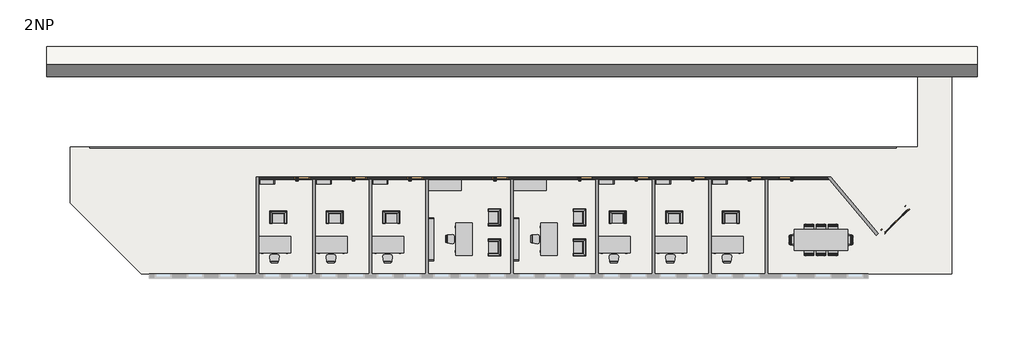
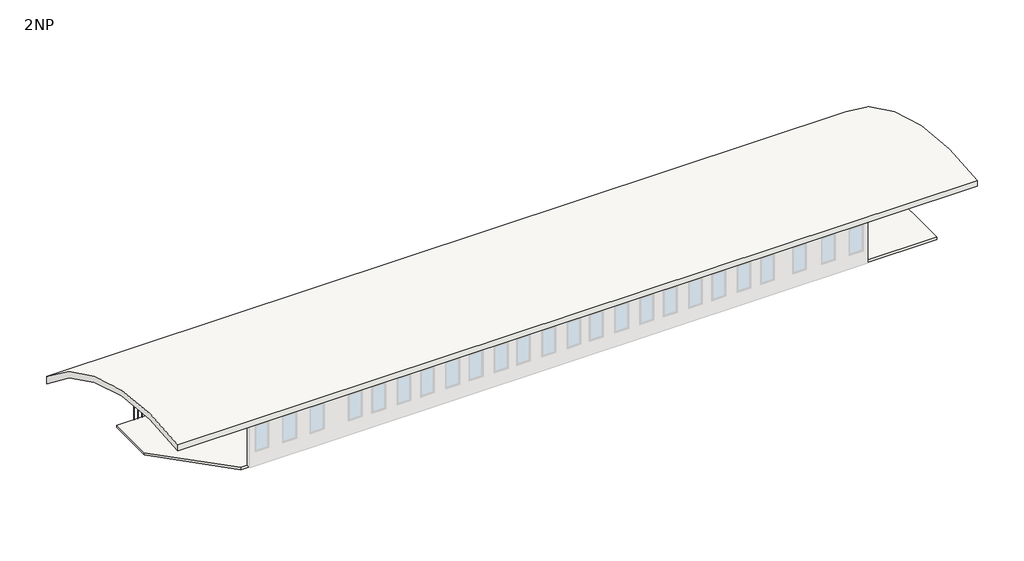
# One storey, part 2 of 2: 45 furniture elements, 10 doors, 1 railing, 1 roof, 1 slab, 1 wall.
"""IFC4 building model written with IfcOpenShell, lengths in millimetres."""

from ifc_helpers import new_model, si_unit, point, frame, frame_2d, origin, place, context, project, spatial, polyline, circle_curve, trimmed, segment, composite_curve, outline, extrude, faceted_brep, transform, mapped, element, save
from components import door_1800_x_1970mm_ce9160c6, door_900_x_2000_4c66a93d, door_900_x_2000_c64c60ef, furniture_b7f3823b, furniture_3b363349, furniture_ccc35c8f, furniture_2764bdef, furniture_0915_x_0254_x_1830mm_1d5e155e, furniture_1200_x_3050mm_930714f4, furniture_1800_x_900mm_2fcb012d, furniture_1830_x_0610mm_1080a9db, furniture_2440_x_0305_x_2134mm_59c1a9e4, railing_1100mm_11e5196f, railing_1100mm_f5e6f717

model = new_model("IFC4")

# Units and contexts
model_context = context("Model", 3, world=origin())
ifc_project = project(units=[si_unit("LENGTHUNIT", "METRE", prefix="MILLI")], contexts=[model_context])

# Site, building, storey
site = spatial("IfcSite", under=ifc_project)
building = spatial("IfcBuilding", under=site)
storey = spatial("IfcBuildingStorey", under=building, Name="2NP", Elevation=4000.0)

# Doors
placement = place(None, origin())
door_1800_x_1970mm_shape = door_1800_x_1970mm_ce9160c6(model_context)
element("IfcDoor", 1, ObjectType="Dvoukridle prosklene : 1800 x 1970mm", at=placement, inside=storey, context=model_context, shape_type="MappedRepresentation", body=[
    mapped(door_1800_x_1970mm_shape, transform((35269.5413404, -1561.4077171, 4000.0), x_axis=(-0.7071067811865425, -0.7071067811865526, 0.0), y_axis=(0.7071067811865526, -0.7071067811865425, 0.0), z_axis=(0.0, 0.0, 1.0))),
])
door_900_x_2000_shape = door_900_x_2000_4c66a93d(model_context)
element("IfcDoor", 2, ObjectType="Jednokridle oboustrana zaruben : 900 x 2000", at=placement, inside=storey, context=model_context, shape_type="MappedRepresentation", body=[
    mapped(door_900_x_2000_shape, transform((29135.9255273, 791.5551306, 4000.0), x_axis=(1.0, 0.0, 0.0), y_axis=(0.0, 1.0, 0.0), z_axis=(0.0, 0.0, 1.0))),
])
door_900_x_2000_2_shape = door_900_x_2000_c64c60ef(model_context)
element("IfcDoor", 3, ObjectType="Jednokridle oboustrana zaruben : 900 x 2000", at=placement, inside=storey, context=model_context, shape_type="MappedRepresentation", body=[
    mapped(door_900_x_2000_2_shape, transform((1699.9255273, 791.5551306, 4000.0), x_axis=(-1.0, 0.0, 0.0), y_axis=(0.0, -1.0, 0.0), z_axis=(0.0, 0.0, 1.0))),
])
element("IfcDoor", 4, ObjectType="Jednokridle oboustrana zaruben : 900 x 2000", at=placement, inside=storey, context=model_context, shape_type="MappedRepresentation", body=[
    mapped(door_900_x_2000_2_shape, transform((4899.9255273, 791.5551306, 4000.0), x_axis=(-1.0, 0.0, 0.0), y_axis=(0.0, -1.0, 0.0), z_axis=(0.0, 0.0, 1.0))),
])
element("IfcDoor", 5, ObjectType="Jednokridle oboustrana zaruben : 900 x 2000", at=placement, inside=storey, context=model_context, shape_type="MappedRepresentation", body=[
    mapped(door_900_x_2000_2_shape, transform((8099.9255273, 791.5551306, 4000.0), x_axis=(-1.0, 0.0, 0.0), y_axis=(0.0, -1.0, 0.0), z_axis=(0.0, 0.0, 1.0))),
])
element("IfcDoor", 6, ObjectType="Jednokridle oboustrana zaruben : 900 x 2000", at=placement, inside=storey, context=model_context, shape_type="MappedRepresentation", body=[
    mapped(door_900_x_2000_2_shape, transform((12899.9255273, 791.5551306, 4000.0), x_axis=(-1.0, 0.0, 0.0), y_axis=(0.0, -1.0, 0.0), z_axis=(0.0, 0.0, 1.0))),
])
element("IfcDoor", 7, ObjectType="Jednokridle oboustrana zaruben : 900 x 2000", at=placement, inside=storey, context=model_context, shape_type="MappedRepresentation", body=[
    mapped(door_900_x_2000_2_shape, transform((20899.9255273, 791.5551306, 4000.0), x_axis=(-1.0, 0.0, 0.0), y_axis=(0.0, -1.0, 0.0), z_axis=(0.0, 0.0, 1.0))),
])
element("IfcDoor", 8, ObjectType="Jednokridle oboustrana zaruben : 900 x 2000", at=placement, inside=storey, context=model_context, shape_type="MappedRepresentation", body=[
    mapped(door_900_x_2000_2_shape, transform((24099.9255273, 791.5551306, 4000.0), x_axis=(-1.0, 0.0, 0.0), y_axis=(0.0, -1.0, 0.0), z_axis=(0.0, 0.0, 1.0))),
])
element("IfcDoor", 9, ObjectType="Jednokridle oboustrana zaruben : 900 x 2000", at=placement, inside=storey, context=model_context, shape_type="MappedRepresentation", body=[
    mapped(door_900_x_2000_2_shape, transform((27299.9255273, 791.5551306, 4000.0), x_axis=(-1.0, 0.0, 0.0), y_axis=(0.0, -1.0, 0.0), z_axis=(0.0, 0.0, 1.0))),
])
element("IfcDoor", 10, ObjectType="Jednokridle oboustrana zaruben : 900 x 2000", at=placement, inside=storey, context=model_context, shape_type="MappedRepresentation", body=[
    mapped(door_900_x_2000_2_shape, transform((17699.9255273, 791.5551306, 4000.0), x_axis=(-1.0, 0.0, 0.0), y_axis=(0.0, -1.0, 0.0), z_axis=(0.0, 0.0, 1.0))),
])

# Furniture
furniture_shape = furniture_b7f3823b(model_context)
element("IfcFurniture", 11, ObjectType="Prac.zidleH : Prac.zidleHranata", at=placement, inside=storey, context=model_context, shape_type="MappedRepresentation", body=[
    mapped(furniture_shape, transform((31897.6750188, -2087.6223918, 4000.0), x_axis=(-1.0, 0.0, 0.0), y_axis=(0.0, -1.0, 0.0), z_axis=(0.0, 0.0, 1.0))),
])
element("IfcFurniture", 12, ObjectType="Prac.zidleH : Prac.zidleHranata", at=placement, inside=storey, context=model_context, shape_type="MappedRepresentation", body=[
    mapped(furniture_shape, transform((31615.6933794, -3325.5141951, 4000.0), x_axis=(1.0, 0.0, 0.0), y_axis=(0.0, 1.0, 0.0), z_axis=(0.0, 0.0, 1.0))),
])
element("IfcFurniture", 13, ObjectType="Prac.zidleH : Prac.zidleHranata", at=placement, inside=storey, context=model_context, shape_type="MappedRepresentation", body=[
    mapped(furniture_shape, transform((30527.9250188, -2087.6223918, 4000.0), x_axis=(-1.0, 0.0, 0.0), y_axis=(0.0, -1.0, 0.0), z_axis=(0.0, 0.0, 1.0))),
])
element("IfcFurniture", 14, ObjectType="Prac.zidleH : Prac.zidleHranata", at=placement, inside=storey, context=model_context, shape_type="MappedRepresentation", body=[
    mapped(furniture_shape, transform((30245.9433794, -3325.5141951, 4000.0), x_axis=(1.0, 0.0, 0.0), y_axis=(0.0, 1.0, 0.0), z_axis=(0.0, 0.0, 1.0))),
])
element("IfcFurniture", 15, ObjectType="Prac.zidleH : Prac.zidleHranata", at=placement, inside=storey, context=model_context, shape_type="MappedRepresentation", body=[
    mapped(furniture_shape, transform((31212.8000188, -2087.6223918, 4000.0), x_axis=(-1.0, 0.0, 0.0), y_axis=(0.0, -1.0, 0.0), z_axis=(0.0, 0.0, 1.0))),
])
element("IfcFurniture", 16, ObjectType="Prac.zidleH : Prac.zidleHranata", at=placement, inside=storey, context=model_context, shape_type="MappedRepresentation", body=[
    mapped(furniture_shape, transform((30930.8183794, -3325.5141951, 4000.0), x_axis=(1.0, 0.0, 0.0), y_axis=(0.0, 1.0, 0.0), z_axis=(0.0, 0.0, 1.0))),
])
furniture_2_shape = furniture_3b363349(model_context)
element("IfcFurniture", 17, ObjectType="Prac.zidleP : Prac.zidlePodrucky", at=placement, inside=storey, context=model_context, shape_type="MappedRepresentation", body=[
    mapped(furniture_2_shape, transform((32615.6301008, -2847.5591131, 4000.0), x_axis=(0.0, 1.0, 0.0), y_axis=(-1.0, 0.0, 0.0), z_axis=(0.0, 0.0, 1.0))),
])
element("IfcFurniture", 18, ObjectType="Prac.zidleP : Prac.zidlePodrucky", at=placement, inside=storey, context=model_context, shape_type="MappedRepresentation", body=[
    mapped(furniture_2_shape, transform((29527.7382975, -2565.5774738, 4000.0), x_axis=(0.0, -1.0000000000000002, 0.0), y_axis=(1.0000000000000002, 0.0, 0.0), z_axis=(0.0, 0.0, 1.0))),
])
furniture_3_shape = furniture_ccc35c8f(model_context)
element("IfcFurniture", 19, ObjectType="Prac.zidle : prac.zidleZaobl", at=placement, inside=storey, context=model_context, shape_type="MappedRepresentation", body=[
    mapped(furniture_3_shape, transform((149.9255273, -3938.9177984, 4000.0), x_axis=(1.0, 0.0, 0.0), y_axis=(0.0, 1.0, 0.0), z_axis=(0.0, 0.0, 1.0))),
])
element("IfcFurniture", 20, ObjectType="Prac.zidle : prac.zidleZaobl", at=placement, inside=storey, context=model_context, shape_type="MappedRepresentation", body=[
    mapped(furniture_3_shape, transform((3349.9255273, -3938.9177984, 4000.0), x_axis=(1.0, 0.0, 0.0), y_axis=(0.0, 1.0, 0.0), z_axis=(0.0, 0.0, 1.0))),
])
element("IfcFurniture", 21, ObjectType="Prac.zidle : prac.zidleZaobl", at=placement, inside=storey, context=model_context, shape_type="MappedRepresentation", body=[
    mapped(furniture_3_shape, transform((6549.9255273, -3938.9177984, 4000.0), x_axis=(1.0, 0.0, 0.0), y_axis=(0.0, 1.0, 0.0), z_axis=(0.0, 0.0, 1.0))),
])
element("IfcFurniture", 22, ObjectType="Prac.zidle : prac.zidleZaobl", at=placement, inside=storey, context=model_context, shape_type="MappedRepresentation", body=[
    mapped(furniture_3_shape, transform((9920.3097542, -2661.8601839, 4000.0), x_axis=(0.0, -1.0, 0.0), y_axis=(1.0, 0.0, 0.0), z_axis=(0.0, 0.0, 1.0))),
])
element("IfcFurniture", 23, ObjectType="Prac.zidle : prac.zidleZaobl", at=placement, inside=storey, context=model_context, shape_type="MappedRepresentation", body=[
    mapped(furniture_3_shape, transform((19349.9255273, -3938.9177984, 4000.0), x_axis=(1.0, 0.0, 0.0), y_axis=(0.0, 1.0, 0.0), z_axis=(0.0, 0.0, 1.0))),
])
element("IfcFurniture", 24, ObjectType="Prac.zidle : prac.zidleZaobl", at=placement, inside=storey, context=model_context, shape_type="MappedRepresentation", body=[
    mapped(furniture_3_shape, transform((22549.9255273, -3938.9177984, 4000.0), x_axis=(1.0, 0.0, 0.0), y_axis=(0.0, 1.0, 0.0), z_axis=(0.0, 0.0, 1.0))),
])
element("IfcFurniture", 25, ObjectType="Prac.zidle : prac.zidleZaobl", at=placement, inside=storey, context=model_context, shape_type="MappedRepresentation", body=[
    mapped(furniture_3_shape, transform((25749.9255273, -3938.9177984, 4000.0), x_axis=(1.0, 0.0, 0.0), y_axis=(0.0, 1.0, 0.0), z_axis=(0.0, 0.0, 1.0))),
])
element("IfcFurniture", 26, ObjectType="Prac.zidle : prac.zidleZaobl", at=placement, inside=storey, context=model_context, shape_type="MappedRepresentation", body=[
    mapped(furniture_3_shape, transform((14720.3097542, -2661.8601839, 4000.0), x_axis=(0.0, -1.0, 0.0), y_axis=(1.0, 0.0, 0.0), z_axis=(0.0, 0.0, 1.0))),
])
furniture_4_shape = furniture_2764bdef(model_context)
element("IfcFurniture", 27, ObjectType="KresilkoCorbusier : KresilkoCorbusier", at=placement, inside=storey, context=model_context, shape_type="MappedRepresentation", body=[
    mapped(furniture_4_shape, transform((2989.3517568, -1887.3719186, 4000.0), x_axis=(1.0, 0.0, 0.0), y_axis=(0.0, 1.0, 0.0), z_axis=(0.0, 0.0, 1.0))),
])
element("IfcFurniture", 28, ObjectType="KresilkoCorbusier : KresilkoCorbusier", at=placement, inside=storey, context=model_context, shape_type="MappedRepresentation", body=[
    mapped(furniture_4_shape, transform((-210.6482432, -1887.3719186, 4000.0), x_axis=(1.0, 0.0, 0.0), y_axis=(0.0, 1.0, 0.0), z_axis=(0.0, 0.0, 1.0))),
])
element("IfcFurniture", 29, ObjectType="KresilkoCorbusier : KresilkoCorbusier", at=placement, inside=storey, context=model_context, shape_type="MappedRepresentation", body=[
    mapped(furniture_4_shape, transform((6189.3517568, -1887.3719186, 4000.0), x_axis=(1.0, 0.0, 0.0), y_axis=(0.0, 1.0, 0.0), z_axis=(0.0, 0.0, 1.0))),
])
element("IfcFurniture", 30, ObjectType="KresilkoCorbusier : KresilkoCorbusier", at=placement, inside=storey, context=model_context, shape_type="MappedRepresentation", body=[
    mapped(furniture_4_shape, transform((12135.7353038, -861.9944392, 4000.0), x_axis=(0.0, -1.0, 0.0), y_axis=(1.0, 0.0, 0.0), z_axis=(0.0, 0.0, 1.0))),
])
element("IfcFurniture", 31, ObjectType="KresilkoCorbusier : KresilkoCorbusier", at=placement, inside=storey, context=model_context, shape_type="MappedRepresentation", body=[
    mapped(furniture_4_shape, transform((18989.3517568, -1887.3719186, 4000.0), x_axis=(1.0, 0.0, 0.0), y_axis=(0.0, 1.0, 0.0), z_axis=(0.0, 0.0, 1.0))),
])
element("IfcFurniture", 32, ObjectType="KresilkoCorbusier : KresilkoCorbusier", at=placement, inside=storey, context=model_context, shape_type="MappedRepresentation", body=[
    mapped(furniture_4_shape, transform((22189.3517568, -1887.3719186, 4000.0), x_axis=(1.0, 0.0, 0.0), y_axis=(0.0, 1.0, 0.0), z_axis=(0.0, 0.0, 1.0))),
])
element("IfcFurniture", 33, ObjectType="KresilkoCorbusier : KresilkoCorbusier", at=placement, inside=storey, context=model_context, shape_type="MappedRepresentation", body=[
    mapped(furniture_4_shape, transform((25389.3517568, -1887.3719186, 4000.0), x_axis=(1.0, 0.0, 0.0), y_axis=(0.0, 1.0, 0.0), z_axis=(0.0, 0.0, 1.0))),
])
element("IfcFurniture", 34, ObjectType="KresilkoCorbusier : KresilkoCorbusier", at=placement, inside=storey, context=model_context, shape_type="MappedRepresentation", body=[
    mapped(furniture_4_shape, transform((12135.7353038, -2557.1944392, 4000.0), x_axis=(0.0, -1.0, 0.0), y_axis=(1.0, 0.0, 0.0), z_axis=(0.0, 0.0, 1.0))),
])
element("IfcFurniture", 35, ObjectType="KresilkoCorbusier : KresilkoCorbusier", at=placement, inside=storey, context=model_context, shape_type="MappedRepresentation", body=[
    mapped(furniture_4_shape, transform((16935.7353038, -861.9944392, 4000.0), x_axis=(0.0, -1.0, 0.0), y_axis=(1.0, 0.0, 0.0), z_axis=(0.0, 0.0, 1.0))),
])
element("IfcFurniture", 36, ObjectType="KresilkoCorbusier : KresilkoCorbusier", at=placement, inside=storey, context=model_context, shape_type="MappedRepresentation", body=[
    mapped(furniture_4_shape, transform((16935.7353038, -2557.1944392, 4000.0), x_axis=(0.0, -1.0, 0.0), y_axis=(1.0, 0.0, 0.0), z_axis=(0.0, 0.0, 1.0))),
])
furniture_0915_x_0254_x_1830mm_shape = furniture_0915_x_0254_x_1830mm_1d5e155e(model_context)
element("IfcFurniture", 37, ObjectType="PolicovaSkrin : 0915 x 0254 x 1830mm", at=placement, inside=storey, context=model_context, shape_type="MappedRepresentation", body=[
    mapped(furniture_0915_x_0254_x_1830mm_shape, transform((-284.0744727, 900.1051306, 4000.0), x_axis=(1.0, 0.0, 0.0), y_axis=(0.0, 1.0, 0.0), z_axis=(0.0, 0.0, 1.0))),
])
element("IfcFurniture", 38, ObjectType="PolicovaSkrin : 0915 x 0254 x 1830mm", at=placement, inside=storey, context=model_context, shape_type="MappedRepresentation", body=[
    mapped(furniture_0915_x_0254_x_1830mm_shape, transform((2915.9255273, 900.1051306, 4000.0), x_axis=(1.0, 0.0, 0.0), y_axis=(0.0, 1.0, 0.0), z_axis=(0.0, 0.0, 1.0))),
])
element("IfcFurniture", 39, ObjectType="PolicovaSkrin : 0915 x 0254 x 1830mm", at=placement, inside=storey, context=model_context, shape_type="MappedRepresentation", body=[
    mapped(furniture_0915_x_0254_x_1830mm_shape, transform((6115.9255273, 900.1051306, 4000.0), x_axis=(1.0, 0.0, 0.0), y_axis=(0.0, 1.0, 0.0), z_axis=(0.0, 0.0, 1.0))),
])
element("IfcFurniture", 40, ObjectType="PolicovaSkrin : 0915 x 0254 x 1830mm", at=placement, inside=storey, context=model_context, shape_type="MappedRepresentation", body=[
    mapped(furniture_0915_x_0254_x_1830mm_shape, transform((18915.9255273, 900.1051306, 4000.0), x_axis=(1.0, 0.0, 0.0), y_axis=(0.0, 1.0, 0.0), z_axis=(0.0, 0.0, 1.0))),
])
element("IfcFurniture", 41, ObjectType="PolicovaSkrin : 0915 x 0254 x 1830mm", at=placement, inside=storey, context=model_context, shape_type="MappedRepresentation", body=[
    mapped(furniture_0915_x_0254_x_1830mm_shape, transform((22115.9255273, 900.1051306, 4000.0), x_axis=(1.0, 0.0, 0.0), y_axis=(0.0, 1.0, 0.0), z_axis=(0.0, 0.0, 1.0))),
])
element("IfcFurniture", 42, ObjectType="PolicovaSkrin : 0915 x 0254 x 1830mm", at=placement, inside=storey, context=model_context, shape_type="MappedRepresentation", body=[
    mapped(furniture_0915_x_0254_x_1830mm_shape, transform((25315.9255273, 900.1051306, 4000.0), x_axis=(1.0, 0.0, 0.0), y_axis=(0.0, 1.0, 0.0), z_axis=(0.0, 0.0, 1.0))),
])
furniture_1200_x_3050mm_shape = furniture_1200_x_3050mm_930714f4(model_context)
element("IfcFurniture", 43, ObjectType="Konf.stul : 1200 x 3050mm", at=placement, inside=storey, context=model_context, shape_type="MappedRepresentation", body=[
    mapped(furniture_1200_x_3050mm_shape, transform((31071.6841991, -2706.5682935, 4000.0), x_axis=(-1.0, 0.0, 0.0), y_axis=(0.0, -1.0, 0.0), z_axis=(0.0, 0.0, 1.0))),
])
furniture_1800_x_900mm_shape = furniture_1800_x_900mm_2fcb012d(model_context)
element("IfcFurniture", 44, ObjectType="Prac.stul : 1800 x 900mm", at=placement, inside=storey, context=model_context, shape_type="MappedRepresentation", body=[
    mapped(furniture_1800_x_900mm_shape, transform((1058.4255273, -2534.8677984, 4000.0), x_axis=(-1.0, 0.0, 0.0), y_axis=(0.0, -1.0, 0.0), z_axis=(0.0, 0.0, 1.0))),
])
element("IfcFurniture", 45, ObjectType="Prac.stul : 1800 x 900mm", at=placement, inside=storey, context=model_context, shape_type="MappedRepresentation", body=[
    mapped(furniture_1800_x_900mm_shape, transform((4258.4255273, -2534.8677984, 4000.0), x_axis=(-1.0, 0.0, 0.0), y_axis=(0.0, -1.0, 0.0), z_axis=(0.0, 0.0, 1.0))),
])
element("IfcFurniture", 46, ObjectType="Prac.stul : 1800 x 900mm", at=placement, inside=storey, context=model_context, shape_type="MappedRepresentation", body=[
    mapped(furniture_1800_x_900mm_shape, transform((7458.4255273, -2534.8677984, 4000.0), x_axis=(-1.0, 0.0, 0.0), y_axis=(0.0, -1.0, 0.0), z_axis=(0.0, 0.0, 1.0))),
])
element("IfcFurniture", 47, ObjectType="Prac.stul : 1800 x 900mm", at=placement, inside=storey, context=model_context, shape_type="MappedRepresentation", body=[
    mapped(furniture_1800_x_900mm_shape, transform((11324.3597542, -3570.3601839, 4000.0), x_axis=(0.0, 1.0, 0.0), y_axis=(-1.0, 0.0, 0.0), z_axis=(0.0, 0.0, 1.0))),
])
element("IfcFurniture", 48, ObjectType="Prac.stul : 1800 x 900mm", at=placement, inside=storey, context=model_context, shape_type="MappedRepresentation", body=[
    mapped(furniture_1800_x_900mm_shape, transform((20258.4255273, -2534.8677984, 4000.0), x_axis=(-1.0, 0.0, 0.0), y_axis=(0.0, -1.0, 0.0), z_axis=(0.0, 0.0, 1.0))),
])
element("IfcFurniture", 49, ObjectType="Prac.stul : 1800 x 900mm", at=placement, inside=storey, context=model_context, shape_type="MappedRepresentation", body=[
    mapped(furniture_1800_x_900mm_shape, transform((23458.4255273, -2534.8677984, 4000.0), x_axis=(-1.0, 0.0, 0.0), y_axis=(0.0, -1.0, 0.0), z_axis=(0.0, 0.0, 1.0))),
])
element("IfcFurniture", 50, ObjectType="Prac.stul : 1800 x 900mm", at=placement, inside=storey, context=model_context, shape_type="MappedRepresentation", body=[
    mapped(furniture_1800_x_900mm_shape, transform((26658.4255273, -2534.8677984, 4000.0), x_axis=(-1.0, 0.0, 0.0), y_axis=(0.0, -1.0, 0.0), z_axis=(0.0, 0.0, 1.0))),
])
element("IfcFurniture", 51, ObjectType="Prac.stul : 1800 x 900mm", at=placement, inside=storey, context=model_context, shape_type="MappedRepresentation", body=[
    mapped(furniture_1800_x_900mm_shape, transform((16124.3597542, -3570.3601839, 4000.0), x_axis=(0.0, 1.0, 0.0), y_axis=(-1.0, 0.0, 0.0), z_axis=(0.0, 0.0, 1.0))),
])
furniture_1830_x_0610mm_shape = furniture_1830_x_0610mm_1080a9db(model_context)
element("IfcFurniture", 52, ObjectType="SkrinNizka : 1830 x 0610mm", at=placement, inside=storey, context=model_context, shape_type="MappedRepresentation", body=[
    mapped(furniture_1830_x_0610mm_shape, transform((9713.881265, 412.7248027, 4000.0), x_axis=(1.0, 0.0, 0.0), y_axis=(0.0, 1.0, 0.0), z_axis=(0.0, 0.0, 1.0))),
])
element("IfcFurniture", 53, ObjectType="SkrinNizka : 1830 x 0610mm", at=placement, inside=storey, context=model_context, shape_type="MappedRepresentation", body=[
    mapped(furniture_1830_x_0610mm_shape, transform((14513.881265, 412.7248027, 4000.0), x_axis=(1.0, 0.0, 0.0), y_axis=(0.0, 1.0, 0.0), z_axis=(0.0, 0.0, 1.0))),
])
furniture_2440_x_0305_x_2134mm_shape = furniture_2440_x_0305_x_2134mm_59c1a9e4(model_context)
element("IfcFurniture", 54, ObjectType="PolicovaSkrin : 2440 x 0305 x 2134mm", at=placement, inside=storey, context=model_context, shape_type="MappedRepresentation", body=[
    mapped(furniture_2440_x_0305_x_2134mm_shape, transform((9315.7255273, -2670.3601839, 4000.0), x_axis=(0.0, -1.0, 0.0), y_axis=(1.0, 0.0, 0.0), z_axis=(0.0, 0.0, 1.0))),
])
element("IfcFurniture", 55, ObjectType="PolicovaSkrin : 2440 x 0305 x 2134mm", at=placement, inside=storey, context=model_context, shape_type="MappedRepresentation", body=[
    mapped(furniture_2440_x_0305_x_2134mm_shape, transform((14115.7255273, -2670.3601839, 4000.0), x_axis=(0.0, -1.0, 0.0), y_axis=(1.0, 0.0, 0.0), z_axis=(0.0, 0.0, 1.0))),
])

# Railing
railing_1100mm_shape = railing_1100mm_11e5196f(model_context)
railing_1100mm_2_shape = railing_1100mm_f5e6f717(model_context)
element("IfcRailing", 56, ObjectType="1100mm", at=placement, inside=storey, context=model_context, shape_type="MappedRepresentation", body=[
    mapped(railing_1100mm_shape, transform((0.0, 0.0, 0.0), x_axis=(1.0, 0.0, 0.0), y_axis=(0.0, 1.0, 0.0), z_axis=(0.0, 0.0, 1.0))),
    mapped(railing_1100mm_2_shape, transform((0.0, 0.0, 0.0), x_axis=(1.0, 0.0, 0.0), y_axis=(0.0, 1.0, 0.0), z_axis=(0.0, 0.0, 1.0))),
])

# Roof
element("IfcRoof", 57, ObjectType="Generic - 400mm", at=placement, inside=storey, context=model_context, shape_type="SweptSolid", body=[
    extrude(outline(composite_curve([segment(trimmed(circle_curve(frame_2d((-3782.5530793, -9232.9575956)), 18209.3296337), [point((-6745.0106033, 8733.7764183))], [point((8250.6718533, 4433.8336676))], False, "CARTESIAN"), True, "CONTINUOUS"), segment(polyline([(8250.6718533, 4433.8336676), (8250.6718533, 3896.1596529)]), True, "CONTINUOUS"), segment(trimmed(circle_curve(frame_2d((-3782.5530793, -9232.9575956)), 17809.3296337), [point((8250.6718533, 3896.1596529))], [point((-6745.0106033, 8328.2515718))], True, "CARTESIAN"), True, "CONTINUOUS"), segment(polyline([(-6745.0106033, 8328.2515718), (-6745.0106033, 8733.7764183)]), True, "CONTINUOUS")], self_intersect=False)), frame((-12744.3244727, 0.0, 0.0), z_axis=(1.0, 0.0, 0.0), x_axis=(0.0, 1.0, 0.0)), (0.0, 0.0, 1.0), 52667.0),
])

# Slab
element("IfcSlab", 58, ObjectType="Generic 150mm", at=placement, inside=storey, context=model_context, shape_type="SweptSolid", body=[
    extrude(outline(polyline([(-11410.8244727, -601.928028), (-11410.8244727, 2541.5551306), (36558.4255273, 2541.5551306), (36558.4255273, 7108.0551306), (38455.6755273, 7108.0551306), (38455.6755273, -4624.9448694), (-7387.8076313, -4624.9448694), (-11410.8244727, -601.928028)])), frame((0.0, 0.0, 3850.0), z_axis=(0.0, 0.0, 1.0), x_axis=(1.0, 0.0, 0.0)), (0.0, 0.0, 1.0), 150.0),
])

# Wall
element("IfcWall", 59, ObjectType="Interior - 138mm Partition (1-hr)", at=placement, inside=storey, context=model_context, shape_type="Brep", body=[
    faceted_brep([(17269.9255273, 860.8051306, 6050.0), (17269.9255273, 860.8051306, 4000.0), (13369.9255273, 860.8051306, 4000.0), (13369.9255273, 860.8051306, 6050.0), (12469.9255273, 860.8051306, 6050.0), (12469.9255273, 860.8051306, 4000.0), (8569.9255273, 860.8051306, 4000.0), (8569.9255273, 860.8051306, 6050.0), (7669.9255273, 860.8051306, 6050.0), (7669.9255273, 860.8051306, 4000.0), (5369.9255273, 860.8051306, 4000.0), (5369.9255273, 860.8051306, 6050.0), (4469.9255273, 860.8051306, 6050.0), (4469.9255273, 860.8051306, 4000.0), (2169.9255273, 860.8051306, 4000.0), (2169.9255273, 860.8051306, 6050.0), (1269.9255273, 860.8051306, 6050.0), (1269.9255273, 860.8051306, 4000.0), (-741.5744727, 860.8051306, 4000.0), (-741.5744727, 860.8051306, 8000.0), (31432.8028061, 860.8051306, 8000.0), (31432.8028061, 860.8051306, 4000.0), (29565.9255273, 860.8051306, 4000.0), (29565.9255273, 860.8051306, 6050.0), (28665.9255273, 860.8051306, 6050.0), (28665.9255273, 860.8051306, 4000.0), (27769.9255273, 860.8051306, 4000.0), (27769.9255273, 860.8051306, 6050.0), (26869.9255273, 860.8051306, 6050.0), (26869.9255273, 860.8051306, 4000.0), (24569.9255273, 860.8051306, 4000.0), (24569.9255273, 860.8051306, 6050.0), (23669.9255273, 860.8051306, 6050.0), (23669.9255273, 860.8051306, 4000.0), (21369.9255273, 860.8051306, 4000.0), (21369.9255273, 860.8051306, 6050.0), (20469.9255273, 860.8051306, 6050.0), (20469.9255273, 860.8051306, 4000.0), (18169.9255273, 860.8051306, 4000.0), (18169.9255273, 860.8051306, 6050.0), (13369.9255273, 722.3051306, 4000.0), (13519.9255273, 722.3051306, 4000.0), (13658.4255273, 722.3051306, 4000.0), (17269.9255273, 722.3051306, 4000.0), (17269.9255273, 722.3051306, 6050.0), (18169.9255273, 722.3051306, 6050.0), (18169.9255273, 722.3051306, 4000.0), (18319.9255273, 722.3051306, 4000.0), (18458.4255273, 722.3051306, 4000.0), (20469.9255273, 722.3051306, 4000.0), (20469.9255273, 722.3051306, 6050.0), (21369.9255273, 722.3051306, 6050.0), (21369.9255273, 722.3051306, 4000.0), (21519.9255273, 722.3051306, 4000.0), (21658.4255273, 722.3051306, 4000.0), (23669.9255273, 722.3051306, 4000.0), (23669.9255273, 722.3051306, 6050.0), (24569.9255273, 722.3051306, 6050.0), (24569.9255273, 722.3051306, 4000.0), (24719.9255273, 722.3051306, 4000.0), (24858.4255273, 722.3051306, 4000.0), (26869.9255273, 722.3051306, 4000.0), (26869.9255273, 722.3051306, 6050.0), (27769.9255273, 722.3051306, 6050.0), (27769.9255273, 722.3051306, 4000.0), (27919.9255273, 722.3051306, 4000.0), (28058.4255273, 722.3051306, 4000.0), (28665.9255273, 722.3051306, 4000.0), (28665.9255273, 722.3051306, 6050.0), (29565.9255273, 722.3051306, 6050.0), (29565.9255273, 722.3051306, 4000.0), (31549.018105, 722.3051306, 4000.0), (31549.018105, 722.3051306, 8000.0), (-741.5744727, 722.3051306, 8000.0), (-741.5744727, 722.3051306, 4000.0), (1269.9255273, 722.3051306, 4000.0), (1269.9255273, 722.3051306, 6050.0), (2169.9255273, 722.3051306, 6050.0), (2169.9255273, 722.3051306, 4000.0), (2319.9255273, 722.3051306, 4000.0), (2458.4255273, 722.3051306, 4000.0), (4469.9255273, 722.3051306, 4000.0), (4469.9255273, 722.3051306, 6050.0), (5369.9255273, 722.3051306, 6050.0), (5369.9255273, 722.3051306, 4000.0), (5519.9255273, 722.3051306, 4000.0), (5658.4255273, 722.3051306, 4000.0), (7669.9255273, 722.3051306, 4000.0), (7669.9255273, 722.3051306, 6050.0), (8569.9255273, 722.3051306, 6050.0), (8569.9255273, 722.3051306, 4000.0), (8719.9255273, 722.3051306, 4000.0), (8858.4255273, 722.3051306, 4000.0), (12469.9255273, 722.3051306, 4000.0), (12469.9255273, 722.3051306, 6050.0), (13369.9255273, 722.3051306, 6050.0)], [[[0, 1, 2, 3, 4, 5, 6, 7, 8, 9, 10, 11, 12, 13, 14, 15, 16, 17, 18, 19, 20, 21, 22, 23, 24, 25, 26, 27, 28, 29, 30, 31, 32, 33, 34, 35, 36, 37, 38, 39]], [[40, 41, 42, 43, 44, 45, 46, 47, 48, 49, 50, 51, 52, 53, 54, 55, 56, 57, 58, 59, 60, 61, 62, 63, 64, 65, 66, 67, 68, 69, 70, 71, 72, 73, 74, 75, 76, 77, 78, 79, 80, 81, 82, 83, 84, 85, 86, 87, 88, 89, 90, 91, 92, 93, 94, 95]], [[71, 70, 22, 21]], [[18, 17, 75, 74]], [[10, 9, 87, 86, 85, 84]], [[14, 13, 81, 80, 79, 78]], [[6, 5, 93, 92, 91, 90]], [[2, 1, 43, 42, 41, 40]], [[34, 33, 55, 54, 53, 52]], [[30, 29, 61, 60, 59, 58]], [[26, 25, 67, 66, 65, 64]], [[38, 37, 49, 48, 47, 46]], [[20, 19, 73, 72]], [[21, 20, 72, 71]], [[19, 18, 74, 73]], [[23, 22, 70, 69]], [[24, 23, 69, 68]], [[25, 24, 68, 67]], [[82, 81, 13, 12]], [[83, 82, 12, 11]], [[84, 83, 11, 10]], [[76, 75, 17, 16]], [[77, 76, 16, 15]], [[78, 77, 15, 14]], [[88, 87, 9, 8]], [[89, 88, 8, 7]], [[90, 89, 7, 6]], [[94, 93, 5, 4]], [[95, 94, 4, 3]], [[40, 95, 3, 2]], [[50, 49, 37, 36]], [[51, 50, 36, 35]], [[52, 51, 35, 34]], [[56, 55, 33, 32]], [[57, 56, 32, 31]], [[58, 57, 31, 30]], [[62, 61, 29, 28]], [[63, 62, 28, 27]], [[64, 63, 27, 26]], [[44, 43, 1, 0]], [[45, 44, 0, 39]], [[46, 45, 39, 38]]]),
])

save(model, "model.ifc")
